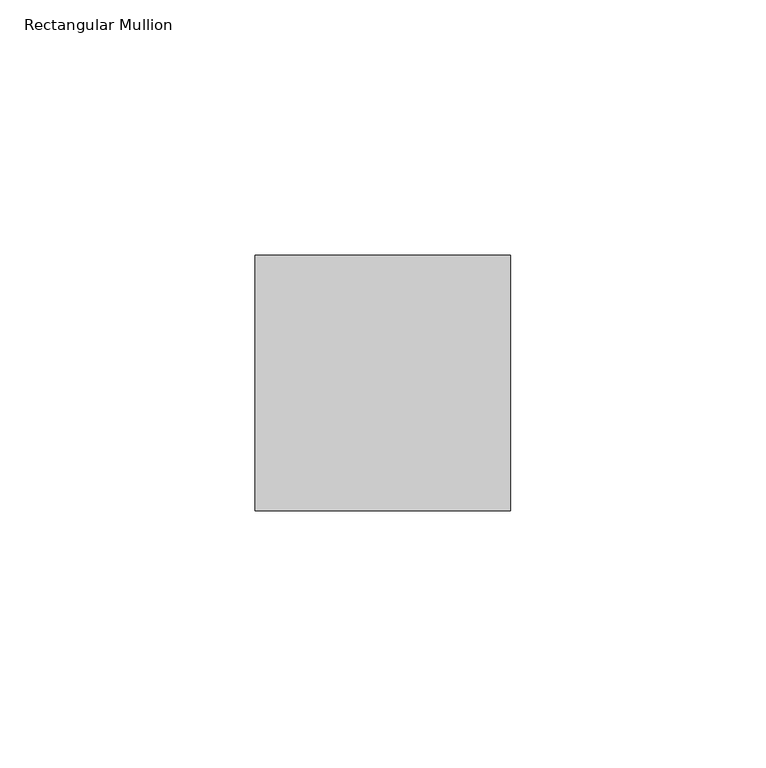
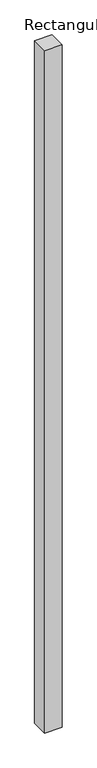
"""IFC4 building model written with IfcOpenShell, lengths in millimetres: member geometry, Rectangular Mullion : Mullion_Curtain Wall_Generic Showcase_50x50mm."""

from ifc_helpers import new_model, si_unit, frame, origin, place, context, project, spatial, polyline, outline, extrude, source, transform, mapped, element, save


def rectangular_mullion_f53c5060(model_context):
    return source(origin(), model_context, "Body", "SweptSolid", [
        extrude(outline(polyline([(0.0, 50.0), (0.0, 0.0), (-50.0, 0.0), (-50.0, 50.0), (0.0, 50.0)])), frame((0.0, 0.0, -2075.0), z_axis=(0.0, 0.0, 1.0), x_axis=(1.0, 0.0, 0.0)), (0.0, 0.0, 1.0), 2075.0),
    ])


if __name__ == "__main__":
    model = new_model("IFC4")
    model_context = context("Model", 3, world=origin())
    ifc_project = project(units=[si_unit("LENGTHUNIT", "METRE", prefix="MILLI")], contexts=[model_context])
    site = spatial("IfcSite", under=ifc_project)
    building = spatial("IfcBuilding", under=site)
    placement = place(None, origin())
    rectangular_mullion_shape = rectangular_mullion_f53c5060(model_context)
    element("IfcMember", 1, ObjectType="Rectangular Mullion : Mullion_Curtain Wall_Generic Showcase_50x50mm", at=placement, inside=building, context=model_context, shape_type="MappedRepresentation", body=[
        mapped(rectangular_mullion_shape, transform((0.0, 0.0, 0.0), x_axis=(1.0, 0.0, 0.0), y_axis=(0.0, 1.0, 0.0), z_axis=(0.0, 0.0, 1.0))),
    ])
    save(model, "model.ifc")
